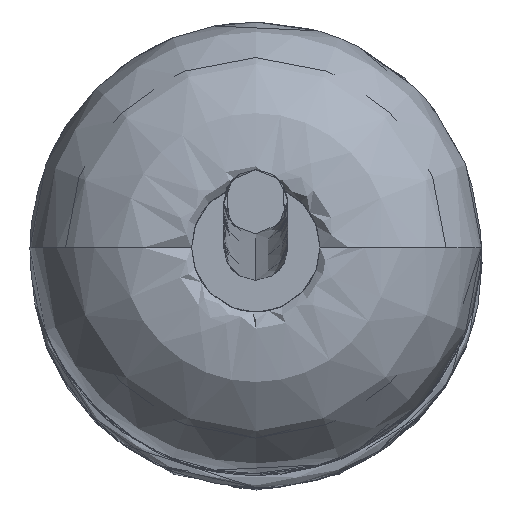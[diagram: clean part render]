
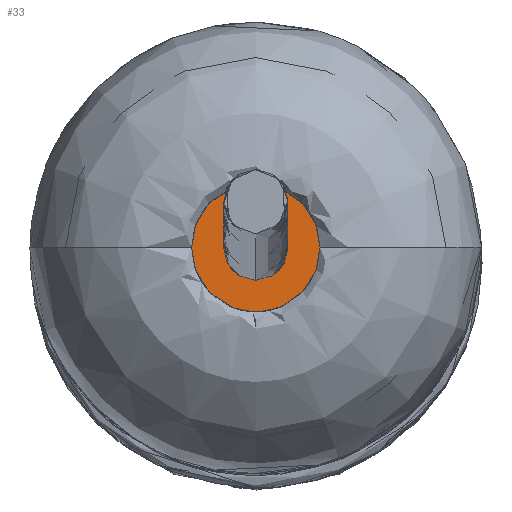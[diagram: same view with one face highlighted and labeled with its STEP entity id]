
A CAD part, top view. The second image highlights one B-rep face of the part: STEP entity #33.
In plain terms, the highlighted free-form (B-spline) face has degree [1, 1] with [2, 2] control points.
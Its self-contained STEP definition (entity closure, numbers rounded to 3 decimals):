
#33=ADVANCED_FACE('',(#61),#719,.T.);
#61=FACE_OUTER_BOUND('',#89,.T.);
#89=EDGE_LOOP('',(#127,#128));
#127=ORIENTED_EDGE('',*,*,#569,.T.);
#128=ORIENTED_EDGE('',*,*,#570,.T.);
#225=B_SPLINE_CURVE_WITH_KNOTS('',1,(#913,#914),.UNSPECIFIED.,.F.,.F.,(2,
2),(-29.845,0.),.UNSPECIFIED.);
#231=B_SPLINE_CURVE_WITH_KNOTS('',1,(#925,#926),.UNSPECIFIED.,.F.,.F.,(2,
2),(-59.69,-29.845),.UNSPECIFIED.);
#325=PCURVE('',#719,#425);
#326=PCURVE('',#719,#426);
#329=PCURVE('',#697,#429);
#333=PCURVE('',#698,#433);
#425=DEFINITIONAL_REPRESENTATION('',(#622),#1912);
#426=DEFINITIONAL_REPRESENTATION('',(#624),#1912);
#429=DEFINITIONAL_REPRESENTATION('',(#225),#1912);
#433=DEFINITIONAL_REPRESENTATION('',(#231),#1912);
#519=SURFACE_CURVE('',#621,(#325,#333),.PCURVE_S1.);
#520=SURFACE_CURVE('',#623,(#326,#329),.PCURVE_S1.);
#569=EDGE_CURVE('',#669,#670,#519,.T.);
#570=EDGE_CURVE('',#670,#669,#520,.T.);
#621=(
BOUNDED_CURVE()
B_SPLINE_CURVE(2,(#873,#874,#875,#876,#877),.UNSPECIFIED.,.F.,.F.)
B_SPLINE_CURVE_WITH_KNOTS((3,2,3),(-59.69,-44.768,
-29.845),.UNSPECIFIED.)
CURVE()
GEOMETRIC_REPRESENTATION_ITEM()
RATIONAL_B_SPLINE_CURVE((1.,0.707,1.,0.707,1.))
REPRESENTATION_ITEM('')
);
#622=(
BOUNDED_CURVE()
B_SPLINE_CURVE(2,(#878,#879,#880,#881,#882),.UNSPECIFIED.,.F.,.F.)
B_SPLINE_CURVE_WITH_KNOTS((3,2,3),(-59.69,-44.768,
-29.845),.UNSPECIFIED.)
CURVE()
GEOMETRIC_REPRESENTATION_ITEM()
RATIONAL_B_SPLINE_CURVE((1.,0.707,1.,0.707,1.))
REPRESENTATION_ITEM('')
);
#623=(
BOUNDED_CURVE()
B_SPLINE_CURVE(2,(#883,#884,#885,#886,#887),.UNSPECIFIED.,.F.,.F.)
B_SPLINE_CURVE_WITH_KNOTS((3,2,3),(-29.845,-14.923,0.),
 .UNSPECIFIED.)
CURVE()
GEOMETRIC_REPRESENTATION_ITEM()
RATIONAL_B_SPLINE_CURVE((1.,0.707,1.,0.707,1.))
REPRESENTATION_ITEM('')
);
#624=(
BOUNDED_CURVE()
B_SPLINE_CURVE(2,(#888,#889,#890,#891,#892),.UNSPECIFIED.,.F.,.F.)
B_SPLINE_CURVE_WITH_KNOTS((3,2,3),(-29.845,-14.923,0.),
 .UNSPECIFIED.)
CURVE()
GEOMETRIC_REPRESENTATION_ITEM()
RATIONAL_B_SPLINE_CURVE((1.,0.707,1.,0.707,1.))
REPRESENTATION_ITEM('')
);
#669=VERTEX_POINT('',#869);
#670=VERTEX_POINT('',#870);
#697=(
BOUNDED_SURFACE()
B_SPLINE_SURFACE(2,1,((#849,#850),(#851,#852),(#853,#854),(#855,#856),(#857,
#858)),.UNSPECIFIED.,.F.,.F.,.F.)
B_SPLINE_SURFACE_WITH_KNOTS((3,2,3),(2,2),(0.,14.923,29.845),
(0.,900.),.UNSPECIFIED.)
GEOMETRIC_REPRESENTATION_ITEM()
RATIONAL_B_SPLINE_SURFACE(((1.,1.),(0.707,0.707),
(1.,1.),(0.707,0.707),(1.,1.)))
REPRESENTATION_ITEM('')
SURFACE()
);
#698=(
BOUNDED_SURFACE()
B_SPLINE_SURFACE(2,1,((#859,#860),(#861,#862),(#863,#864),(#865,#866),(#867,
#868)),.UNSPECIFIED.,.F.,.F.,.F.)
B_SPLINE_SURFACE_WITH_KNOTS((3,2,3),(2,2),(29.845,44.768,
59.69),(0.,900.),.UNSPECIFIED.)
GEOMETRIC_REPRESENTATION_ITEM()
RATIONAL_B_SPLINE_SURFACE(((1.,1.),(0.707,0.707),
(1.,1.),(0.707,0.707),(1.,1.)))
REPRESENTATION_ITEM('')
SURFACE()
);
#719=B_SPLINE_SURFACE_WITH_KNOTS('',1,1,((#841,#842),(#843,#844)),
 .UNSPECIFIED.,.F.,.F.,.F.,(2,2),(2,2),(-9.69,9.69),
(-9.69,9.69),.UNSPECIFIED.);
#841=CARTESIAN_POINT('',(2023.414,17.537,387.218));
#842=CARTESIAN_POINT('',(2035.203,32.918,387.218));
#843=CARTESIAN_POINT('',(2038.795,5.747,387.218));
#844=CARTESIAN_POINT('',(2050.585,21.129,387.218));
#849=CARTESIAN_POINT('',(2042.778,26.873,387.218));
#850=CARTESIAN_POINT('',(2042.778,26.873,-95.609));
#851=CARTESIAN_POINT('',(2050.318,21.094,387.218));
#852=CARTESIAN_POINT('',(2050.318,21.094,-95.609));
#853=CARTESIAN_POINT('',(2044.539,13.554,387.218));
#854=CARTESIAN_POINT('',(2044.539,13.554,-95.609));
#855=CARTESIAN_POINT('',(2038.76,6.014,387.218));
#856=CARTESIAN_POINT('',(2038.76,6.014,-95.609));
#857=CARTESIAN_POINT('',(2031.22,11.793,387.218));
#858=CARTESIAN_POINT('',(2031.22,11.793,-95.609));
#859=CARTESIAN_POINT('',(2031.22,11.793,387.218));
#860=CARTESIAN_POINT('',(2031.22,11.793,-95.609));
#861=CARTESIAN_POINT('',(2023.68,17.572,387.218));
#862=CARTESIAN_POINT('',(2023.68,17.572,-95.609));
#863=CARTESIAN_POINT('',(2029.459,25.112,387.218));
#864=CARTESIAN_POINT('',(2029.459,25.112,-95.609));
#865=CARTESIAN_POINT('',(2035.238,32.652,387.218));
#866=CARTESIAN_POINT('',(2035.238,32.652,-95.609));
#867=CARTESIAN_POINT('',(2042.778,26.873,387.218));
#868=CARTESIAN_POINT('',(2042.778,26.873,-95.609));
#869=CARTESIAN_POINT('',(2042.778,26.873,387.218));
#870=CARTESIAN_POINT('',(2031.22,11.793,387.218));
#873=CARTESIAN_POINT('',(2042.778,26.873,387.218));
#874=CARTESIAN_POINT('',(2035.238,32.652,387.218));
#875=CARTESIAN_POINT('',(2029.459,25.112,387.218));
#876=CARTESIAN_POINT('',(2023.68,17.572,387.218));
#877=CARTESIAN_POINT('',(2031.22,11.793,387.218));
#878=CARTESIAN_POINT('',(0.,9.5));
#879=CARTESIAN_POINT('',(-9.5,9.5));
#880=CARTESIAN_POINT('',(-9.5,0.));
#881=CARTESIAN_POINT('',(-9.5,-9.5));
#882=CARTESIAN_POINT('',(0.,-9.5));
#883=CARTESIAN_POINT('',(2031.22,11.793,387.218));
#884=CARTESIAN_POINT('',(2038.76,6.014,387.218));
#885=CARTESIAN_POINT('',(2044.539,13.554,387.218));
#886=CARTESIAN_POINT('',(2050.318,21.094,387.218));
#887=CARTESIAN_POINT('',(2042.778,26.873,387.218));
#888=CARTESIAN_POINT('',(0.,-9.5));
#889=CARTESIAN_POINT('',(9.5,-9.5));
#890=CARTESIAN_POINT('',(9.5,0.));
#891=CARTESIAN_POINT('',(9.5,9.5));
#892=CARTESIAN_POINT('',(0.,9.5));
#913=CARTESIAN_POINT('',(29.845,0.));
#914=CARTESIAN_POINT('',(0.,0.));
#925=CARTESIAN_POINT('',(59.69,0.));
#926=CARTESIAN_POINT('',(29.845,0.));
#1912=(
GEOMETRIC_REPRESENTATION_CONTEXT(2)
PARAMETRIC_REPRESENTATION_CONTEXT()
REPRESENTATION_CONTEXT('pspace','')
);
